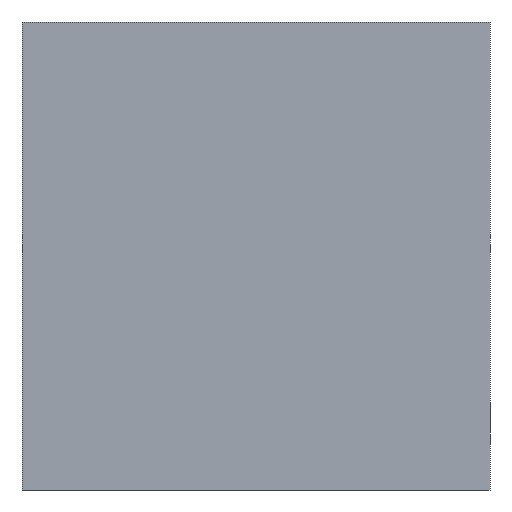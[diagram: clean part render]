
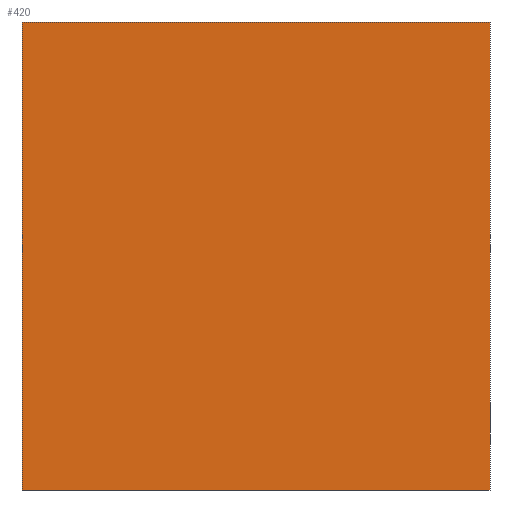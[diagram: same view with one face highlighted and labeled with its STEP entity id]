
A CAD part, front view. The second image highlights one B-rep face of the part: STEP entity #420.
In plain terms, the highlighted planar face has unit normal (0, -1, 0).
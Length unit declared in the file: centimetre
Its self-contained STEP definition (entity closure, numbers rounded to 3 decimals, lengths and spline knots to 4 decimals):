
#33 = EDGE_CURVE ( 'NONE', #273, #341, #111, .T. ) ;
#34 = CARTESIAN_POINT ( 'NONE',  ( 1000., 0., 0. ) ) ;
#37 = VERTEX_POINT ( 'NONE', #34 ) ;
#48 = ORIENTED_EDGE ( 'NONE', *, *, #33, .F. ) ;
#78 = ORIENTED_EDGE ( 'NONE', *, *, #350, .F. ) ;
#83 = PLANE ( 'NONE',  #159 ) ;
#84 = VECTOR ( 'NONE', #163, 100. ) ;
#85 = LINE ( 'NONE', #223, #84 ) ;
#89 = LINE ( 'NONE', #160, #229 ) ;
#111 = LINE ( 'NONE', #245, #180 ) ;
#121 = LINE ( 'NONE', #157, #185 ) ;
#157 = CARTESIAN_POINT ( 'NONE',  ( 0., 0., 0. ) ) ;
#158 = DIRECTION ( 'NONE',  ( 1., 0., 0. ) ) ;
#159 = AXIS2_PLACEMENT_3D ( 'NONE', #227, #249, #190 ) ;
#160 = CARTESIAN_POINT ( 'NONE',  ( 1000., 0., 1000. ) ) ;
#163 = DIRECTION ( 'NONE',  ( 0., 0., -1. ) ) ;
#180 = VECTOR ( 'NONE', #208, 100. ) ;
#185 = VECTOR ( 'NONE', #158, 100. ) ;
#190 = DIRECTION ( 'NONE',  ( 0., 0., 1. ) ) ;
#191 = CARTESIAN_POINT ( 'NONE',  ( 0., 0., 1000. ) ) ;
#208 = DIRECTION ( 'NONE',  ( 1., 0., 0. ) ) ;
#212 = EDGE_CURVE ( 'NONE', #313, #37, #121, .T. ) ;
#223 = CARTESIAN_POINT ( 'NONE',  ( 0., 0., 1000. ) ) ;
#227 = CARTESIAN_POINT ( 'NONE',  ( 0., 0., 1000. ) ) ;
#229 = VECTOR ( 'NONE', #293, 100. ) ;
#233 = EDGE_CURVE ( 'NONE', #273, #313, #85, .T. ) ;
#245 = CARTESIAN_POINT ( 'NONE',  ( 0., 0., 1000. ) ) ;
#249 = DIRECTION ( 'NONE',  ( 0., 1., 0. ) ) ;
#256 = FACE_OUTER_BOUND ( 'NONE', #400, .T. ) ;
#273 = VERTEX_POINT ( 'NONE', #191 ) ;
#277 = ORIENTED_EDGE ( 'NONE', *, *, #212, .T. ) ;
#293 = DIRECTION ( 'NONE',  ( 0., 0., -1. ) ) ;
#313 = VERTEX_POINT ( 'NONE', #324 ) ;
#324 = CARTESIAN_POINT ( 'NONE',  ( 0., 0., 0. ) ) ;
#341 = VERTEX_POINT ( 'NONE', #382 ) ;
#350 = EDGE_CURVE ( 'NONE', #341, #37, #89, .T. ) ;
#376 = ORIENTED_EDGE ( 'NONE', *, *, #233, .T. ) ;
#382 = CARTESIAN_POINT ( 'NONE',  ( 1000., 0., 1000. ) ) ;
#400 = EDGE_LOOP ( 'NONE', ( #277, #78, #48, #376 ) ) ;
#420 = ADVANCED_FACE ( 'NONE', ( #256 ), #83, .F. ) ;
